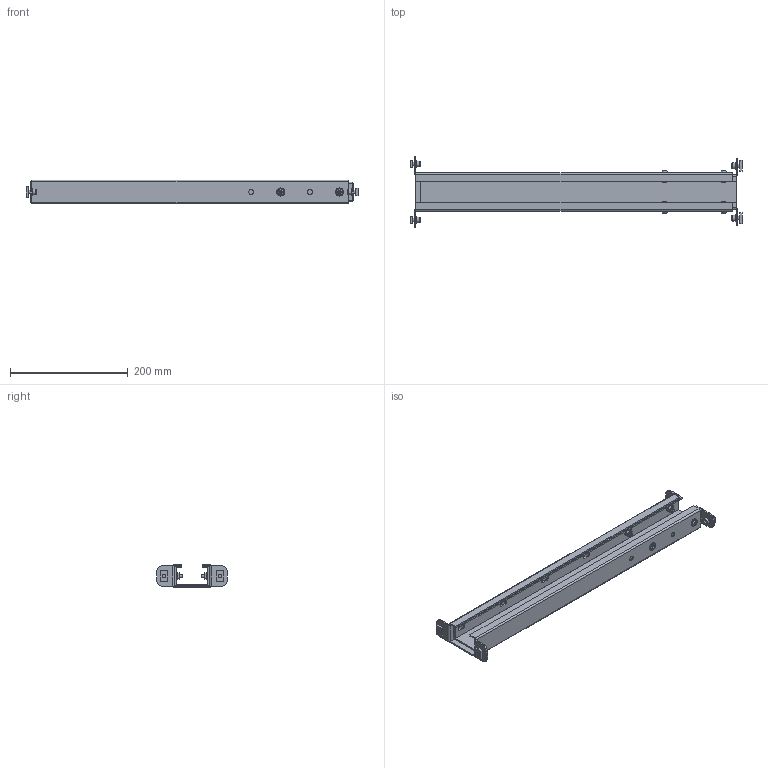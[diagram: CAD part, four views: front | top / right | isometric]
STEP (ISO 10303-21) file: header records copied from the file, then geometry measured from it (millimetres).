
FILE_DESCRIPTION(/* description */ ('Unknown','CAx-IF Rec.Pracs.---Representation and Presentation of Product Manufacturing Information (PMI)---4.0---2014-10-13','CAx-IF Rec.Pracs.---3D Tessellated Geometry---0.4---2014-09-14','2;1'),/* implementation_level */ '2;1');
FILE_NAME(/* name */ '127.00636_00-550mm',/* time_stamp */ '2024-09-30T15:09:24+02:00',/* author */ ('Unknown'),/* organization */ ('Unknown'),/* preprocessor_version */ 'ST-DEVELOPER v18.104',/* originating_system */ 'Solid Edge',/* authorisation */ 'Unknown');
FILE_SCHEMA (('AP242_MANAGED_MODEL_BASED_3D_ENGINEERING_MIM_LF { 1 0 10303 442 1 1 4 }'));
Length unit declared in the file: millimetre
Products named in the file (9): 127.00636; 096599~1; 096600~1; Sechskantmutter M6 DIN 934; Scheibe Ø6,4 DIN 125; 142.00081; 142.00018; 126.00495; Halbrundkopfschraube mit Innensechskant und Bund M6x16 ISO 7380-2
Assembly tree (26 placements, depth 2):
  127.00636
    096599~1
    096600~1
    Sechskantmutter M6 DIN 934  x4
    Scheibe Ø6,4 DIN 125  x4
    142.00081  x4
    142.00018  x4
    126.00495  x4
    Halbrundkopfschraube mit Innensechskant und Bund M6x16 ISO 7380-2  x4
Bounding box: 563.8 x 120 x 40 mm (x, y, z)
Volume: 416533 mm3; surface area: 345266.4 mm2
Topology: 26 solids, 26 shells, 544 faces, 1354 edges, 882 vertices
Faces by surface type: plane 256, cylinder 180, torus 72, bspline 24, cone 8, sphere 4
Full cylindrical faces by diameter (mm): 4.917 x4, 6 x12, 6.4 x8, 8.5 x12, 10 x4, 11 x4, 12 x4, 13.6 x4
Entity records: 8517 total; most frequent: CARTESIAN_POINT 1948, DIRECTION 1268, ORIENTED_EDGE 1224, EDGE_CURVE 612, AXIS2_PLACEMENT_3D 451, VERTEX_POINT 420, LINE 366, VECTOR 366
